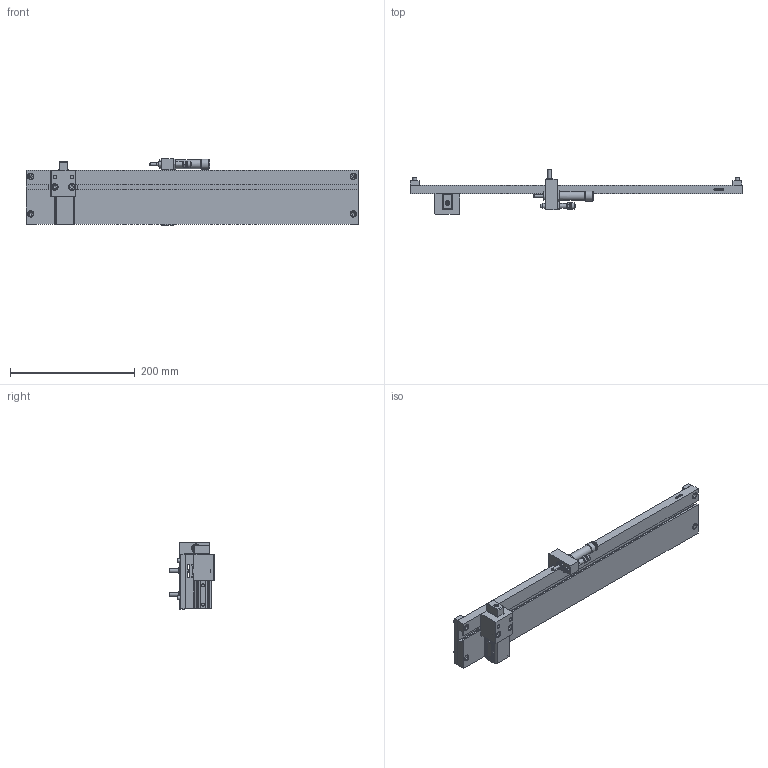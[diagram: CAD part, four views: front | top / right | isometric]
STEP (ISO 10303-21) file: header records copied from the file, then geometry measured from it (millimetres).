
FILE_DESCRIPTION((''),'2;1');
FILE_NAME('C:\Test\stp\4000042.stp','2008-03-20T18:03:51',('is'),(''),'Autodesk Inventor 10','Autodesk Inventor 10','');
FILE_SCHEMA(('AUTOMOTIVE_DESIGN { 1 0 10303 214 1 1 1 1 }'));
Length unit declared in the file: millimetre
Products named in the file (7): 4000042; 4000026; Abstandsleiste; 4000048; 4000047
Assembly tree (7 placements, depth 3):
  4000042
    4000026
    Abstandsleiste  x2
    4000048
    4000047
      4000047
      4000047
Bounding box: 532 x 72 x 107 mm (x, y, z)
Volume: 701406.1 mm3; surface area: 199301 mm2
Topology: 6 solids, 27 shells, 872 faces, 2037 edges, 1331 vertices
Faces by surface type: plane 401, bspline 285, cylinder 97, cone 70, torus 19
Full cylindrical faces by diameter (mm): 1.4 x1, 2 x1, 3.6 x1, 3.9 x2, 4 x7, 4.3 x1, 5.5 x1, 6 x10, 7 x3, 7.4 x1, 7.8 x2, 8 x4, 9 x4, 9.7 x2, 10 x9, 14 x4, 14.2 x1, 16 x1
Entity records: 28579 total; most frequent: CARTESIAN_POINT 11414, ORIENTED_EDGE 3464, DIRECTION 2903, EDGE_CURVE 1732, VERTEX_POINT 1247, EDGE_LOOP 1223, AXIS2_PLACEMENT_3D 1008, VECTOR 887
